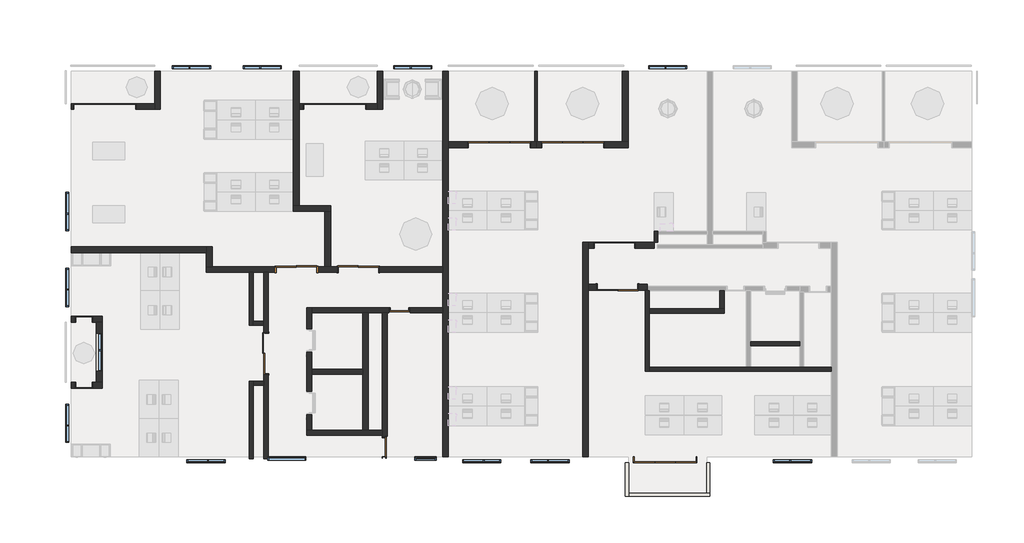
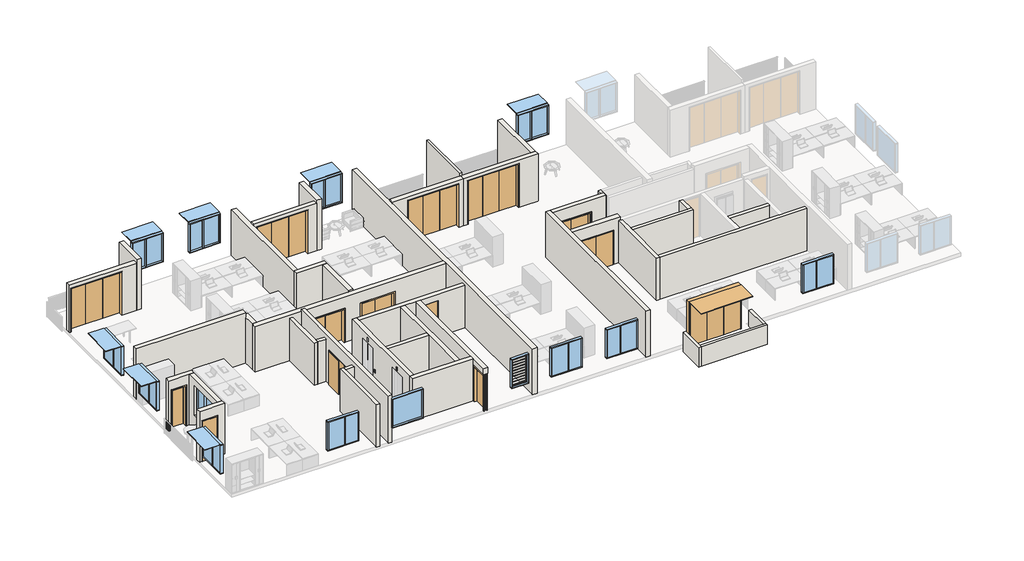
# One storey, part 1 of 5: 41 walls, 14 doors, 14 windows.
"""IFC4 building model written with IfcOpenShell, lengths in millimetres."""

from ifc_helpers import new_model, si_unit, frame, origin, place, context, project, spatial, polyline, outline, extrude, faceted_brep, transform, mapped, element, save
from components import bi_fold_dor_3_panel_3000_75a00cad, bi_fold_dor_3_panel_3000_5813971a, bi_fold_dor_3_panel_3000_e548de2b, swing_double_metal_frame_double_2040_x_970x2_2b0cb67a, swing_double_metal_frame_double_2040_x_970x2_da7648d6, swing_double_metal_frame_double_2040_x_970x2_02f75465, swing_double_metal_frame_double_2040_x_970x2_6dcf773a, swing_metal_frame_single_dor_f6efc24d, swing_metal_frame_single_dor1_247f4e75, swing_metal_frame_single_dor1_c5ce34d2, window_bottom_hung_window_bottom_hung_3b05c637, window_bottom_hung_window_bottom_hung_da071f07, window_bottom_hung_window_bottom_hung_7567f9e0, window_fixed_1800mm_wide_7e584eee, window_louvre_window_louvre_92f3ddc7

model = new_model("IFC4")

# Units and contexts
model_context = context("Model", 3, world=origin())
ifc_project = project(units=[si_unit("LENGTHUNIT", "METRE", prefix="MILLI")], contexts=[model_context])

# Site, building, storey
site = spatial("IfcSite", under=ifc_project)
building = spatial("IfcBuilding", under=site)
storey = spatial("IfcBuildingStorey", under=building, Name="2階", Elevation=33000.0)

# Doors
placement = place(None, origin())
bi_fold_dor_3_panel_3000_shape = bi_fold_dor_3_panel_3000_75a00cad(model_context)
element("IfcDoor", 1, ObjectType="Bi Fold_DOR : 3 Panel - 3000", at=placement, inside=storey, context=model_context, shape_type="MappedRepresentation", body=[
    mapped(bi_fold_dor_3_panel_3000_shape, transform((26223.4034243, 14994.8875971, 33000.0), x_axis=(1.0, 0.0, 0.0), y_axis=(0.0, 1.0, 0.0), z_axis=(0.0, 0.0, 1.0))),
])
element("IfcDoor", 2, ObjectType="Bi Fold_DOR : 3 Panel - 3000", at=placement, inside=storey, context=model_context, shape_type="MappedRepresentation", body=[
    mapped(bi_fold_dor_3_panel_3000_shape, transform((4214.6057353, 16794.8875971, 33000.0), x_axis=(1.0, 0.0, 0.0), y_axis=(0.0, 1.0, 0.0), z_axis=(0.0, 0.0, 1.0))),
])
element("IfcDoor", 3, ObjectType="Bi Fold_DOR : 3 Panel - 3000", at=placement, inside=storey, context=model_context, shape_type="MappedRepresentation", body=[
    mapped(bi_fold_dor_3_panel_3000_shape, transform((15017.1904782, 16794.8875971, 33000.0), x_axis=(1.0, 0.0, 0.0), y_axis=(0.0, 1.0, 0.0), z_axis=(0.0, 0.0, 1.0))),
])
bi_fold_dor_3_panel_3000_2_shape = bi_fold_dor_3_panel_3000_5813971a(model_context)
element("IfcDoor", 4, ObjectType="Bi Fold_DOR : 3 Panel - 3000", at=placement, inside=storey, context=model_context, shape_type="MappedRepresentation", body=[
    mapped(bi_fold_dor_3_panel_3000_2_shape, transform((22753.4034243, 14994.8875971, 33000.0), x_axis=(-1.0, 0.0, 0.0), y_axis=(0.0, -1.0, 0.0), z_axis=(0.0, 0.0, 1.0))),
])
bi_fold_dor_3_panel_3000_3_shape = bi_fold_dor_3_panel_3000_e548de2b(model_context)
element("IfcDoor", 5, ObjectType="Bi Fold_DOR : 3 Panel - 3000", at=placement, inside=storey, context=model_context, shape_type="MappedRepresentation", body=[
    mapped(bi_fold_dor_3_panel_3000_3_shape, transform((30556.5410012, 174.0898177, 33000.0), x_axis=(-1.0, 0.0, 0.0), y_axis=(0.0, -1.0, 0.0), z_axis=(0.0, 0.0, 1.0))),
])
swing_double_metal_frame_double_2040_x_970x2_shape = swing_double_metal_frame_double_2040_x_970x2_2b0cb67a(model_context)
element("IfcDoor", 6, ObjectType="Swing_Double : Metal Frame Double - 2040 x 970x2", at=placement, inside=storey, context=model_context, shape_type="MappedRepresentation", body=[
    mapped(swing_double_metal_frame_double_2040_x_970x2_shape, transform((28383.3213637, 10265.005792, 33000.0), x_axis=(1.0, 0.0, 0.0), y_axis=(0.0, 1.0, 0.0), z_axis=(0.0, 0.0, 1.0))),
])
swing_double_metal_frame_double_2040_x_970x2_2_shape = swing_double_metal_frame_double_2040_x_970x2_da7648d6(model_context)
element("IfcDoor", 7, ObjectType="Swing_Double : Metal Frame Double - 2040 x 970x2", at=placement, inside=storey, context=model_context, shape_type="MappedRepresentation", body=[
    mapped(swing_double_metal_frame_double_2040_x_970x2_2_shape, transform((11794.6062665, 4967.7678956, 33000.0), x_axis=(0.0, -1.0, 0.0), y_axis=(1.0, 0.0, 0.0), z_axis=(0.0, 0.0, 1.0))),
])
swing_double_metal_frame_double_2040_x_970x2_3_shape = swing_double_metal_frame_double_2040_x_970x2_02f75465(model_context)
element("IfcDoor", 8, ObjectType="Swing_Double : Metal Frame Double - 2040 x 970x2", at=placement, inside=storey, context=model_context, shape_type="MappedRepresentation", body=[
    mapped(swing_double_metal_frame_double_2040_x_970x2_3_shape, transform((28108.0196221, 8295.005792, 33000.0), x_axis=(-1.0, 0.0, 0.0), y_axis=(0.0, -1.0, 0.0), z_axis=(0.0, 0.0, 1.0))),
])
element("IfcDoor", 9, ObjectType="Swing_Double : Metal Frame Double - 2040 x 970x2", at=placement, inside=storey, context=model_context, shape_type="MappedRepresentation", body=[
    mapped(swing_double_metal_frame_double_2040_x_970x2_3_shape, transform((16341.1062665, 9131.2680774, 33000.0), x_axis=(1.0, 0.0, 0.0), y_axis=(0.0, 1.0, 0.0), z_axis=(0.0, 0.0, 1.0))),
])
swing_double_metal_frame_double_2040_x_970x2_4_shape = swing_double_metal_frame_double_2040_x_970x2_6dcf773a(model_context)
element("IfcDoor", 10, ObjectType="Swing_Double : Metal Frame Double - 2040 x 970x2", at=placement, inside=storey, context=model_context, shape_type="MappedRepresentation", body=[
    mapped(swing_double_metal_frame_double_2040_x_970x2_4_shape, transform((13005.6904782, 9131.2680774, 33000.0), x_axis=(-1.0, 0.0, 0.0), y_axis=(0.0, -1.0, 0.0), z_axis=(0.0, 0.0, 1.0))),
])
swing_metal_frame_single_dor_shape = swing_metal_frame_single_dor_f6efc24d(model_context)
element("IfcDoor", 11, ObjectType="Swing_Metal Frame_Single_DOR : 2140h x 920 (2210x1010 BLK)", at=placement, inside=storey, context=model_context, shape_type="MappedRepresentation", body=[
    mapped(swing_metal_frame_single_dor_shape, transform((17369.6062665, 770.0, 33000.0), x_axis=(0.0, 1.0, 0.0), y_axis=(-1.0, 0.0, 0.0), z_axis=(0.0, 0.0, 1.0))),
])
element("IfcDoor", 12, ObjectType="Swing_Metal Frame_Single_DOR : 2140h x 920 (2210x1010 BLK)", at=placement, inside=storey, context=model_context, shape_type="MappedRepresentation", body=[
    mapped(swing_metal_frame_single_dor_shape, transform((18069.6062665, 7210.0, 33000.0), x_axis=(1.0, 0.0, 0.0), y_axis=(0.0, 1.0, 0.0), z_axis=(0.0, 0.0, 1.0))),
])
swing_metal_frame_single_dor1_shape = swing_metal_frame_single_dor1_247f4e75(model_context)
element("IfcDoor", 13, ObjectType="Swing_Metal Frame_Single_DOR1 : 2040h x 820 (2110x920 STUD)", at=placement, inside=storey, context=model_context, shape_type="MappedRepresentation", body=[
    mapped(swing_metal_frame_single_dor1_shape, transform((3227.1057353, 3681.2680774, 33000.0), x_axis=(1.0, 0.0, 0.0), y_axis=(0.0, 1.0, 0.0), z_axis=(0.0, 0.0, 1.0))),
])
swing_metal_frame_single_dor1_2_shape = swing_metal_frame_single_dor1_c5ce34d2(model_context)
element("IfcDoor", 14, ObjectType="Swing_Metal Frame_Single_DOR1 : 2040h x 820 (2110x920 STUD)", at=placement, inside=storey, context=model_context, shape_type="MappedRepresentation", body=[
    mapped(swing_metal_frame_single_dor1_2_shape, transform((3227.1057353, 6785.3166994, 33000.0), x_axis=(1.0, 0.0, 0.0), y_axis=(0.0, 1.0, 0.0), z_axis=(0.0, 0.0, 1.0))),
])

# Walls
element("IfcWall", 15, ObjectType="Brickwork_Double_270mm", at=placement, inside=storey, context=model_context, shape_type="Brep", body=[
    faceted_brep([(20364.6062665, 309.0898177, 33000.0), (20364.6062665, 14859.8875971, 33000.0), (20364.6062665, 15129.8875971, 33000.0), (20364.6062665, 18440.0, 33000.0), (20364.6062665, 18440.0, 35700.0), (20364.6062665, 18440.0, 35800.0), (20364.6062665, 309.0898177, 35800.0), (20094.6062665, 309.0898177, 33000.0), (20094.6062665, 309.0898177, 35800.0), (20094.6062665, 8996.2680774, 35800.0), (20094.6062665, 9266.2680774, 35800.0), (20094.6062665, 18440.0, 35800.0), (20094.6062665, 18440.0, 33000.0), (20094.6062665, 9266.2680774, 33000.0), (20094.6062665, 8996.2680774, 33000.0), (20094.6062665, 7335.0, 33000.0), (20094.6062665, 7085.0, 33000.0)], [[[0, 1, 2, 3, 4, 5, 6]], [[7, 8, 9, 10, 11, 12, 13, 14, 15, 16]], [[3, 2, 1, 0, 7, 16, 15, 14, 13, 12]], [[6, 5, 11, 10, 9, 8]], [[0, 6, 8, 7]], [[5, 4, 3, 12, 11]]]),
])
element("IfcWall", 16, ObjectType="Brickwork_Double_270mm", at=placement, inside=storey, context=model_context, shape_type="Brep", body=[
    faceted_brep([(26951.8807277, 309.0898177, 33000.0), (26951.8807277, 8160.005792, 33000.0), (26951.8807277, 8430.005792, 33000.0), (26951.8807277, 10130.005792, 33000.0), (26951.8807277, 10400.005792, 33000.0), (26951.8807277, 10400.005792, 35800.0), (26951.8807277, 10130.005792, 35800.0), (26951.8807277, 8430.005792, 35800.0), (26951.8807277, 8160.005792, 35800.0), (26951.8807277, 309.0898177, 35800.0), (26681.8807277, 309.0898177, 33000.0), (26681.8807277, 309.0898177, 35800.0), (26681.8807277, 10400.005792, 35800.0), (26681.8807277, 10400.005792, 33000.0)], [[[0, 1, 2, 3, 4, 5, 6, 7, 8, 9]], [[10, 11, 12, 13]], [[4, 3, 2, 1, 0, 10, 13]], [[9, 8, 7, 6, 5, 12, 11]], [[0, 9, 11, 10]], [[5, 4, 13, 12]]]),
])
element("IfcWall", 17, ObjectType="Brickwork_Double_270mm", at=placement, inside=storey, context=model_context, shape_type="Brep", body=[
    faceted_brep([(20094.6062665, 8996.2680774, 35800.0), (8984.6062665, 8996.2680774, 35800.0), (8984.6062665, 8996.2680774, 33000.0), (12217.1904782, 8996.2680774, 33000.0), (12217.1904782, 8996.2680774, 35090.0), (14217.1904782, 8996.2680774, 35090.0), (14217.1904782, 8996.2680774, 33000.0), (15129.6062665, 8996.2680774, 33000.0), (15129.6062665, 8996.2680774, 35090.0), (17129.6062665, 8996.2680774, 35090.0), (17129.6062665, 8996.2680774, 33000.0), (20094.6062665, 8996.2680774, 33000.0), (8984.6062665, 9266.2680774, 35800.0), (9254.6062665, 9266.2680774, 35800.0), (20094.6062665, 9266.2680774, 35800.0), (20094.6062665, 9266.2680774, 33000.0), (17129.6062665, 9266.2680774, 33000.0), (17129.6062665, 9266.2680774, 35090.0), (15129.6062665, 9266.2680774, 35090.0), (15129.6062665, 9266.2680774, 33000.0), (14827.1904782, 9266.2680774, 33000.0), (14557.1904782, 9266.2680774, 33000.0), (14217.1904782, 9266.2680774, 33000.0), (14217.1904782, 9266.2680774, 35090.0), (12217.1904782, 9266.2680774, 35090.0), (12217.1904782, 9266.2680774, 33000.0), (9254.6062665, 9266.2680774, 33000.0), (8984.6062665, 9266.2680774, 33000.0)], [[[0, 1, 2, 3, 4, 5, 6, 7, 8, 9, 10, 11]], [[12, 13, 14, 15, 16, 17, 18, 19, 20, 21, 22, 23, 24, 25, 26, 27]], [[15, 11, 10, 16]], [[2, 27, 26, 25, 3]], [[6, 22, 21, 20, 19, 7]], [[1, 0, 14, 13, 12]], [[0, 11, 15, 14]], [[27, 2, 1, 12]], [[6, 5, 23, 22]], [[5, 4, 24, 23]], [[4, 3, 25, 24]], [[18, 8, 7, 19]], [[8, 18, 17, 9]], [[9, 17, 16, 10]]]),
])
element("IfcWall", 18, ObjectType="Brickwork_Double_270mm", at=placement, inside=storey, context=model_context, shape_type="Brep", body=[
    faceted_brep([(9254.6062665, 9266.2680774, 33000.0), (9254.6062665, 10185.7680774, 33000.0), (9254.6062665, 10185.7680774, 35800.0), (9254.6062665, 9266.2680774, 35800.0), (8984.6062665, 9266.2680774, 33000.0), (8984.6062665, 9266.2680774, 35800.0), (8984.6062665, 10185.7680774, 35800.0), (8984.6062665, 10185.7680774, 33000.0), (8984.6062665, 9915.7680774, 33000.0)], [[[0, 1, 2, 3]], [[4, 5, 6, 7, 8]], [[1, 0, 4, 8, 7]], [[3, 2, 6, 5]], [[2, 1, 7, 6]], [[0, 3, 5, 4]]]),
])
element("IfcWall", 19, ObjectType="Brickwork_Double_270mm", at=placement, inside=storey, context=model_context, shape_type="Brep", body=[
    faceted_brep([(13352.1904782, 12125.0213727, 33000.0), (13352.1904782, 16659.8875971, 33000.0), (13352.1904782, 16929.8875971, 33000.0), (13352.1904782, 18440.0, 33000.0), (13352.1904782, 18440.0, 35700.0), (13352.1904782, 18440.0, 35800.0), (13352.1904782, 12125.0213727, 35800.0), (13082.1904782, 12125.0213727, 33000.0), (13082.1904782, 12125.0213727, 35800.0), (13082.1904782, 18440.0, 35800.0), (13082.1904782, 18440.0, 33000.0)], [[[0, 1, 2, 3, 4, 5, 6]], [[7, 8, 9, 10]], [[3, 2, 1, 0, 7, 10]], [[6, 5, 9, 8]], [[5, 4, 3, 10, 9]], [[0, 6, 8, 7]]]),
])
element("IfcWall", 20, ObjectType="Brickwork_Double_270mm", at=placement, inside=storey, context=model_context, shape_type="SweptSolid", body=[
    extrude(outline(polyline([(33000.0, 26951.8807277), (33000.0, 27171.8213637), (35090.0, 27171.8213637), (35090.0, 29171.8213637), (33000.0, 29171.8213637), (33000.0, 30037.1585166), (35800.0, 30037.1585166), (35800.0, 26951.8807277), (33000.0, 26951.8807277)])), frame((0.0, 10130.005792, 0.0), z_axis=(0.0, 1.0, 0.0), x_axis=(0.0, 0.0, 1.0)), (0.0, 0.0, 1.0), 270.0),
])
element("IfcWall", 21, ObjectType="Brickwork_Double_270mm", at=placement, inside=storey, context=model_context, shape_type="Brep", body=[
    faceted_brep([(28823.2012748, 14859.8875971, 35900.0), (24488.4034243, 14859.8875971, 35900.0), (24488.4034243, 14859.8875971, 33000.0), (24723.4034243, 14859.8875971, 33000.0), (24723.4034243, 14859.8875971, 35700.0), (27723.4034243, 14859.8875971, 35700.0), (27723.4034243, 14859.8875971, 33000.0), (28823.2012748, 14859.8875971, 33000.0), (24488.4034243, 15129.8875971, 35900.0), (28553.2012748, 15129.8875971, 35900.0), (28823.2012748, 15129.8875971, 35900.0), (28823.2012748, 15129.8875971, 33000.0), (28553.2012748, 15129.8875971, 33000.0), (27723.4034243, 15129.8875971, 33000.0), (27723.4034243, 15129.8875971, 35700.0), (24723.4034243, 15129.8875971, 35700.0), (24723.4034243, 15129.8875971, 33000.0), (24543.4034243, 15129.8875971, 33000.0), (24488.4034243, 15129.8875971, 33000.0)], [[[0, 1, 2, 3, 4, 5, 6, 7]], [[8, 9, 10, 11, 12, 13, 14, 15, 16, 17, 18]], [[11, 7, 6, 13, 12]], [[2, 18, 17, 16, 3]], [[1, 0, 10, 9, 8]], [[2, 1, 8, 18]], [[0, 7, 11, 10]], [[5, 14, 13, 6]], [[14, 5, 4, 15]], [[15, 4, 3, 16]]]),
])
element("IfcWall", 22, ObjectType="Brickwork_Double_270mm", at=placement, inside=storey, context=model_context, shape_type="Brep", body=[
    faceted_brep([(28823.2012748, 15129.8875971, 33000.0), (28823.2012748, 18440.0, 33000.0), (28823.2012748, 18440.0, 35900.0), (28823.2012748, 15129.8875971, 35900.0), (28553.2012748, 15129.8875971, 33000.0), (28553.2012748, 15129.8875971, 35900.0), (28553.2012748, 18440.0, 35900.0), (28553.2012748, 18440.0, 35700.0), (28553.2012748, 18440.0, 33000.0)], [[[0, 1, 2, 3]], [[4, 5, 6, 7, 8]], [[1, 0, 4, 8]], [[3, 2, 6, 5]], [[2, 1, 8, 7, 6]], [[0, 3, 5, 4]]]),
])
element("IfcWall", 23, ObjectType="Brickwork_Double_270mm", at=placement, inside=storey, context=model_context, shape_type="Brep", body=[
    faceted_brep([(26951.8807277, 8430.005792, 35800.0), (29722.1585166, 8430.005792, 35800.0), (29722.1585166, 8430.005792, 33000.0), (29319.5196221, 8430.005792, 33000.0), (29319.5196221, 8430.005792, 35090.0), (27319.5196221, 8430.005792, 35090.0), (27319.5196221, 8430.005792, 33000.0), (26951.8807277, 8430.005792, 33000.0), (29722.1585166, 8160.005792, 35800.0), (26951.8807277, 8160.005792, 35800.0), (26951.8807277, 8160.005792, 33000.0), (27319.5196221, 8160.005792, 33000.0), (27319.5196221, 8160.005792, 35090.0), (29319.5196221, 8160.005792, 35090.0), (29319.5196221, 8160.005792, 33000.0), (29622.1585166, 8160.005792, 33000.0), (29722.1585166, 8160.005792, 33000.0), (29722.1585166, 8160.005792, 35600.0), (29722.1585166, 8330.005792, 33000.0)], [[[0, 1, 2, 3, 4, 5, 6, 7]], [[8, 9, 10, 11, 12, 13, 14, 15, 16, 17]], [[10, 7, 6, 11]], [[2, 18, 16, 15, 14, 3]], [[1, 0, 9, 8]], [[2, 1, 8, 17, 16, 18]], [[0, 7, 10, 9]], [[13, 4, 3, 14]], [[4, 13, 12, 5]], [[5, 12, 11, 6]]]),
])
element("IfcWall", 24, ObjectType="Brickwork_Double_270mm", at=placement, inside=storey, context=model_context, shape_type="Brep", body=[
    faceted_brep([(8984.6062665, 10185.7680774, 33000.0), (2639.6057353, 10185.7680774, 33000.0), (2639.6057353, 10185.7680774, 36100.0), (8984.6062665, 10185.7680774, 36100.0), (8984.6062665, 10185.7680774, 35800.0), (8984.6062665, 9915.7680774, 33000.0), (8984.6062665, 9915.7680774, 36100.0), (2639.6057353, 9915.7680774, 36100.0), (2639.6057353, 9915.7680774, 33000.0)], [[[0, 1, 2, 3, 4]], [[5, 6, 7, 8]], [[1, 0, 5, 8]], [[3, 2, 7, 6]], [[0, 4, 3, 6, 5]], [[2, 1, 8, 7]]]),
])
element("IfcWall", 25, ObjectType="Brickwork_Double_270mm", at=placement, inside=storey, context=model_context, shape_type="Brep", body=[
    faceted_brep([(6554.6645991, 18440.0, 33000.0), (6554.6645991, 16929.8875971, 33000.0), (6554.6645991, 16659.8875971, 33000.0), (6554.6645991, 16659.8875971, 35900.0), (6554.6645991, 16659.8875971, 36100.0), (6554.6645991, 18440.0, 36100.0), (6554.6645991, 18440.0, 35700.0), (6824.6645991, 18440.0, 33000.0), (6824.6645991, 18440.0, 36100.0), (6824.6645991, 16659.8875971, 36100.0), (6824.6645991, 16659.8875971, 33000.0)], [[[0, 1, 2, 3, 4, 5, 6]], [[7, 8, 9, 10]], [[2, 1, 0, 7, 10]], [[5, 4, 9, 8]], [[0, 6, 5, 8, 7]], [[4, 3, 2, 10, 9]]]),
])
element("IfcWall", 26, ObjectType="Brickwork_Double_270mm", at=placement, inside=storey, context=model_context, shape_type="Brep", body=[
    faceted_brep([(2639.6057353, 3816.2680774, 36100.0), (3814.6057353, 3816.2680774, 36100.0), (4084.6057353, 3816.2680774, 36100.0), (4084.6057353, 3816.2680774, 33000.0), (3814.6057353, 3816.2680774, 33000.0), (3667.1057353, 3816.2680774, 33000.0), (3667.1057353, 3816.2680774, 35490.0), (2787.1057353, 3816.2680774, 35490.0), (2787.1057353, 3816.2680774, 33000.0), (2639.6057353, 3816.2680774, 33000.0), (2639.6057353, 3816.2680774, 35700.0), (4084.6057353, 3546.2680774, 36100.0), (2639.6057353, 3546.2680774, 36100.0), (2639.6057353, 3546.2680774, 33000.0), (2787.1057353, 3546.2680774, 33000.0), (2787.1057353, 3546.2680774, 35490.0), (3667.1057353, 3546.2680774, 35490.0), (3667.1057353, 3546.2680774, 33000.0), (4084.6057353, 3546.2680774, 33000.0)], [[[0, 1, 2, 3, 4, 5, 6, 7, 8, 9, 10]], [[11, 12, 13, 14, 15, 16, 17, 18]], [[13, 9, 8, 14]], [[3, 18, 17, 5, 4]], [[2, 1, 0, 12, 11]], [[0, 10, 9, 13, 12]], [[3, 2, 11, 18]], [[16, 6, 5, 17]], [[6, 16, 15, 7]], [[7, 15, 14, 8]]]),
])
element("IfcWall", 27, ObjectType="Brickwork_Double_270mm", at=placement, inside=storey, context=model_context, shape_type="Brep", body=[
    faceted_brep([(2639.6057353, 6920.3166994, 36100.0), (4084.6057353, 6920.3166994, 36100.0), (4084.6057353, 6920.3166994, 33000.0), (3667.1057353, 6920.3166994, 33000.0), (3667.1057353, 6920.3166994, 35490.0), (2787.1057353, 6920.3166994, 35490.0), (2787.1057353, 6920.3166994, 33000.0), (2639.6057353, 6920.3166994, 33000.0), (4084.6057353, 6650.3166994, 36100.0), (3814.6057353, 6650.3166994, 36100.0), (2639.6057353, 6650.3166994, 36100.0), (2639.6057353, 6650.3166994, 35700.0), (2639.6057353, 6650.3166994, 33000.0), (2787.1057353, 6650.3166994, 33000.0), (2787.1057353, 6650.3166994, 35490.0), (3667.1057353, 6650.3166994, 35490.0), (3667.1057353, 6650.3166994, 33000.0), (3814.6057353, 6650.3166994, 33000.0), (4084.6057353, 6650.3166994, 33000.0)], [[[0, 1, 2, 3, 4, 5, 6, 7]], [[8, 9, 10, 11, 12, 13, 14, 15, 16, 17, 18]], [[12, 7, 6, 13]], [[2, 18, 17, 16, 3]], [[1, 0, 10, 9, 8]], [[0, 7, 12, 11, 10]], [[2, 1, 8, 18]], [[15, 4, 3, 16]], [[4, 15, 14, 5]], [[5, 14, 13, 6]]]),
])
element("IfcWall", 28, ObjectType="Brickwork_Double_270mm", at=placement, inside=storey, context=model_context, shape_type="SweptSolid", body=[
    extrude(outline(polyline([(3816.2680774, 33000.0), (3816.2680774, 36100.0), (6650.3166994, 36100.0), (6650.3166994, 33000.0), (3816.2680774, 33000.0)]), holes=[polyline([(6133.2923884, 33900.0), (6133.2923884, 35700.0), (4333.2923884, 35700.0), (4333.2923884, 33900.0), (6133.2923884, 33900.0)])]), frame((3814.6057353, 0.0, 0.0), z_axis=(1.0, 0.0, 0.0), x_axis=(0.0, 1.0, 0.0)), (0.0, 0.0, 1.0), 270.0),
])
element("IfcWall", 29, ObjectType="Brickwork_Double_270mm", at=placement, inside=storey, context=model_context, shape_type="Brep", body=[
    faceted_brep([(17017.1904782, 18440.0, 33000.0), (17017.1904782, 16929.8875971, 33000.0), (17017.1904782, 16659.8875971, 33000.0), (17017.1904782, 16659.8875971, 35900.0), (17017.1904782, 16659.8875971, 36100.0), (17017.1904782, 18440.0, 36100.0), (17017.1904782, 18440.0, 35700.0), (17287.1904782, 18440.0, 33000.0), (17287.1904782, 18440.0, 36100.0), (17287.1904782, 16659.8875971, 36100.0), (17287.1904782, 16659.8875971, 33000.0)], [[[0, 1, 2, 3, 4, 5, 6]], [[7, 8, 9, 10]], [[2, 1, 0, 7, 10]], [[5, 4, 9, 8]], [[0, 6, 5, 8, 7]], [[4, 3, 2, 10, 9]]]),
])
element("IfcWall", 30, ObjectType="Whte Paint Finish", at=placement, inside=storey, context=model_context, shape_type="Brep", body=[
    faceted_brep([(28688.2012748, 39.0898177, 32800.0), (28688.2012748, -1535.0, 32800.0), (28688.2012748, -1535.0, 34000.0), (28688.2012748, 39.0898177, 34000.0), (28838.2012748, 39.0898177, 32800.0), (28838.2012748, 39.0898177, 34000.0), (28838.2012748, -1385.0, 34000.0), (28838.2012748, -1535.0, 34000.0), (28838.2012748, -1535.0, 32800.0), (28838.2012748, -1385.0, 32800.0)], [[[0, 1, 2, 3]], [[4, 5, 6, 7, 8, 9]], [[1, 0, 4, 9, 8]], [[3, 2, 7, 6, 5]], [[0, 3, 5, 4]], [[2, 1, 8, 7]]]),
])
element("IfcWall", 31, ObjectType="Whte Paint Finish", at=placement, inside=storey, context=model_context, shape_type="Brep", body=[
    faceted_brep([(28838.2012748, -1535.0, 32800.0), (32664.8807277, -1535.0, 32800.0), (32664.8807277, -1535.0, 34000.0), (28838.2012748, -1535.0, 34000.0), (28838.2012748, -1385.0, 32800.0), (28838.2012748, -1385.0, 34000.0), (32514.8807277, -1385.0, 34000.0), (32664.8807277, -1385.0, 34000.0), (32664.8807277, -1385.0, 32800.0), (32514.8807277, -1385.0, 32800.0)], [[[0, 1, 2, 3]], [[4, 5, 6, 7, 8, 9]], [[1, 0, 4, 9, 8]], [[3, 2, 7, 6, 5]], [[0, 3, 5, 4]], [[2, 1, 8, 7]]]),
])
element("IfcWall", 32, ObjectType="Whte Paint Finish", at=placement, inside=storey, context=model_context, shape_type="SweptSolid", body=[
    extrude(outline(polyline([(32514.8807277, -1385.0), (32514.8807277, 39.0898177), (32664.8807277, 39.0898177), (32664.8807277, -1385.0), (32514.8807277, -1385.0)])), frame((0.0, 0.0, 32800.0), z_axis=(0.0, 0.0, 1.0), x_axis=(1.0, 0.0, 0.0)), (0.0, 0.0, 1.0), 1200.0),
])
element("IfcWall", 33, ObjectType="Brickwork_Double_270mm", at=placement, inside=storey, context=model_context, shape_type="Brep", body=[
    faceted_brep([(6554.6645991, 16659.8875971, 35900.0), (2639.6057353, 16659.8875971, 35900.0), (2639.6057353, 16659.8875971, 33000.0), (2714.6057353, 16659.8875971, 33000.0), (2714.6057353, 16659.8875971, 35700.0), (5714.6057353, 16659.8875971, 35700.0), (5714.6057353, 16659.8875971, 33000.0), (6554.6645991, 16659.8875971, 33000.0), (2639.6057353, 16929.8875971, 35900.0), (6554.6645991, 16929.8875971, 35900.0), (6554.6645991, 16929.8875971, 33000.0), (5714.6057353, 16929.8875971, 33000.0), (5714.6057353, 16929.8875971, 35700.0), (2714.6057353, 16929.8875971, 35700.0), (2714.6057353, 16929.8875971, 33000.0), (2639.6057353, 16929.8875971, 33000.0), (2639.6057353, 16929.8875971, 35700.0)], [[[0, 1, 2, 3, 4, 5, 6, 7]], [[8, 9, 10, 11, 12, 13, 14, 15, 16]], [[2, 15, 14, 3]], [[10, 7, 6, 11]], [[1, 0, 9, 8]], [[5, 12, 11, 6]], [[12, 5, 4, 13]], [[13, 4, 3, 14]], [[0, 7, 10, 9]], [[2, 1, 8, 16, 15]]]),
])
element("IfcWall", 34, ObjectType="Brickwork_Double_270mm", at=placement, inside=storey, context=model_context, shape_type="Brep", body=[
    faceted_brep([(24488.4034243, 14859.8875971, 33000.0), (24488.4034243, 14859.8875971, 35900.0), (20364.6062665, 14859.8875971, 35900.0), (20364.6062665, 14859.8875971, 33000.0), (21253.4034243, 14859.8875971, 33000.0), (21253.4034243, 14859.8875971, 35700.0), (24253.4034243, 14859.8875971, 35700.0), (24253.4034243, 14859.8875971, 33000.0), (24488.4034243, 15129.8875971, 35900.0), (24488.4034243, 15129.8875971, 33000.0), (24433.4034243, 15129.8875971, 33000.0), (24253.4034243, 15129.8875971, 33000.0), (24253.4034243, 15129.8875971, 35700.0), (21253.4034243, 15129.8875971, 35700.0), (21253.4034243, 15129.8875971, 33000.0), (20364.6062665, 15129.8875971, 33000.0), (20364.6062665, 15129.8875971, 35900.0)], [[[0, 1, 2, 3, 4, 5, 6, 7]], [[8, 9, 10, 11, 12, 13, 14, 15, 16]], [[9, 0, 7, 11, 10]], [[3, 15, 14, 4]], [[1, 0, 9, 8]], [[2, 1, 8, 16]], [[13, 5, 4, 14]], [[5, 13, 12, 6]], [[6, 12, 11, 7]], [[3, 2, 16, 15]]]),
])
element("IfcWall", 35, ObjectType="Brickwork_Double_270mm", at=placement, inside=storey, context=model_context, shape_type="SweptSolid", body=[
    extrude(outline(polyline([(35900.0, 17017.1904782), (35900.0, 13352.1904782), (33000.0, 13352.1904782), (33000.0, 13517.1904782), (35700.0, 13517.1904782), (35700.0, 16517.1904782), (33000.0, 16517.1904782), (33000.0, 17017.1904782), (35900.0, 17017.1904782)])), frame((0.0, 16659.8875971, 0.0), z_axis=(0.0, 1.0, 0.0), x_axis=(0.0, 0.0, 1.0)), (0.0, 0.0, 1.0), 270.0),
])
element("IfcWall", 36, ObjectType="Brickwork_Double_270mm", at=placement, inside=storey, context=model_context, shape_type="Brep", body=[
    faceted_brep([(13082.1904782, 11855.0213727, 33000.0), (14557.1904782, 11855.0213727, 33000.0), (14827.1904782, 11855.0213727, 33000.0), (14827.1904782, 11855.0213727, 35900.0), (14557.1904782, 11855.0213727, 35900.0), (13082.1904782, 11855.0213727, 35900.0), (13082.1904782, 12125.0213727, 33000.0), (13082.1904782, 12125.0213727, 35800.0), (13082.1904782, 12125.0213727, 35900.0), (14827.1904782, 12125.0213727, 35900.0), (14827.1904782, 12125.0213727, 33000.0), (13352.1904782, 12125.0213727, 33000.0)], [[[0, 1, 2, 3, 4, 5]], [[6, 7, 8, 9, 10, 11]], [[2, 1, 0, 6, 11, 10]], [[5, 4, 3, 9, 8]], [[3, 2, 10, 9]], [[0, 5, 8, 7, 6]]]),
])
element("IfcWall", 37, ObjectType="Brickwork_Double_270mm", at=placement, inside=storey, context=model_context, shape_type="SweptSolid", body=[
    extrude(outline(polyline([(14557.1904782, 9266.2680774), (14557.1904782, 11855.0213727), (14827.1904782, 11855.0213727), (14827.1904782, 9266.2680774), (14557.1904782, 9266.2680774)])), frame((0.0, 0.0, 33000.0), z_axis=(0.0, 0.0, 1.0), x_axis=(1.0, 0.0, 0.0)), (0.0, 0.0, 1.0), 2900.0),
])
element("IfcWall", 38, ObjectType="Brickwork_Single_110mm", at=placement, inside=storey, context=model_context, shape_type="Brep", body=[
    faceted_brep([(24543.4034243, 15129.8875971, 33000.0), (24543.4034243, 18440.0, 33000.0), (24543.4034243, 18440.0, 36100.0), (24543.4034243, 15129.8875971, 36100.0), (24433.4034243, 15129.8875971, 33000.0), (24433.4034243, 15129.8875971, 36100.0), (24433.4034243, 18440.0, 36100.0), (24433.4034243, 18440.0, 33000.0), (24488.4034243, 15129.8875971, 33000.0)], [[[0, 1, 2, 3]], [[4, 5, 6, 7]], [[1, 0, 8, 4, 7]], [[3, 2, 6, 5]], [[0, 3, 5, 4, 8]], [[2, 1, 7, 6]]]),
])
element("IfcWall", 39, ObjectType="C1 - Concrete Type 2", at=placement, inside=storey, context=model_context, shape_type="Brep", body=[
    faceted_brep([(29822.1585166, 7080.005792, 33000.0), (33332.1585166, 7080.005792, 33000.0), (33332.1585166, 7080.005792, 35600.0), (29822.1585166, 7080.005792, 35600.0), (29822.1585166, 7280.005792, 33000.0), (29822.1585166, 7280.005792, 35600.0), (33132.1585166, 7280.005792, 35600.0), (33332.1585166, 7280.005792, 35600.0), (33332.1585166, 7280.005792, 33000.0), (33132.1585166, 7280.005792, 33000.0)], [[[0, 1, 2, 3]], [[4, 5, 6, 7, 8, 9]], [[1, 0, 4, 9, 8]], [[3, 2, 7, 6, 5]], [[2, 1, 8, 7]], [[0, 3, 5, 4]]]),
])
element("IfcWall", 40, ObjectType="C1 - Concrete Type 2", at=placement, inside=storey, context=model_context, shape_type="SweptSolid", body=[
    extrude(outline(polyline([(33132.1585166, 7280.005792), (33132.1585166, 8130.005792), (33332.1585166, 8130.005792), (33332.1585166, 7280.005792), (33132.1585166, 7280.005792)])), frame((0.0, 0.0, 33000.0), z_axis=(0.0, 0.0, 1.0), x_axis=(1.0, 0.0, 0.0)), (0.0, 0.0, 1.0), 2600.0),
])
element("IfcWall", 41, ObjectType="C1 - Concrete Type 2", at=placement, inside=storey, context=model_context, shape_type="SweptSolid", body=[
    extrude(outline(polyline([(36882.1585166, 5530.005792), (34582.1585166, 5530.005792), (34582.1585166, 5730.005792), (36882.1585166, 5730.005792), (36882.1585166, 5530.005792)])), frame((0.0, 0.0, 33000.0), z_axis=(0.0, 0.0, 1.0), x_axis=(1.0, 0.0, 0.0)), (0.0, 0.0, 1.0), 2600.0),
])
element("IfcWall", 42, ObjectType="C1 - Concrete Type 2", at=placement, inside=storey, context=model_context, shape_type="Brep", body=[
    faceted_brep([(29822.1585166, 4330.005792, 33000.0), (29822.1585166, 4530.005792, 33000.0), (29822.1585166, 7080.005792, 33000.0), (29822.1585166, 7280.005792, 33000.0), (29822.1585166, 8130.005792, 33000.0), (29822.1585166, 8130.005792, 35600.0), (29822.1585166, 7280.005792, 35600.0), (29822.1585166, 7080.005792, 35600.0), (29822.1585166, 4530.005792, 35600.0), (29822.1585166, 4330.005792, 35600.0), (29622.1585166, 4330.005792, 33000.0), (29622.1585166, 4330.005792, 35600.0), (29622.1585166, 8160.005792, 35600.0), (29622.1585166, 8160.005792, 33000.0), (29722.1585166, 8160.005792, 33000.0), (29722.1585166, 8130.005792, 33000.0), (29722.1585166, 8130.005792, 35600.0), (29722.1585166, 8160.005792, 35600.0)], [[[0, 1, 2, 3, 4, 5, 6, 7, 8, 9]], [[10, 11, 12, 13]], [[4, 3, 2, 1, 0, 10, 13, 14, 15]], [[9, 8, 7, 6, 5, 16, 17, 12, 11]], [[0, 9, 11, 10]], [[5, 4, 15, 16]], [[15, 14, 17, 16]], [[14, 13, 12, 17]]]),
])
element("IfcWall", 43, ObjectType="C1 - Concrete Type 2", at=placement, inside=storey, context=model_context, shape_type="Brep", body=[
    faceted_brep([(29822.1585166, 4330.005792, 33000.0), (38377.4654784, 4330.005792, 33000.0), (38377.4654784, 4330.005792, 35600.0), (29822.1585166, 4330.005792, 35600.0), (29822.1585166, 4530.005792, 33000.0), (29822.1585166, 4530.005792, 35600.0), (34382.1585166, 4530.005792, 35600.0), (34582.1585166, 4530.005792, 35600.0), (36882.1585166, 4530.005792, 35600.0), (37082.1585166, 4530.005792, 35600.0), (38377.4654784, 4530.005792, 35600.0), (38377.4654784, 4530.005792, 33000.0), (37082.1585166, 4530.005792, 33000.0), (36882.1585166, 4530.005792, 33000.0), (34582.1585166, 4530.005792, 33000.0), (34382.1585166, 4530.005792, 33000.0)], [[[0, 1, 2, 3]], [[4, 5, 6, 7, 8, 9, 10, 11, 12, 13, 14, 15]], [[1, 0, 4, 15, 14, 13, 12, 11]], [[3, 2, 10, 9, 8, 7, 6, 5]], [[0, 3, 5, 4]], [[2, 1, 11, 10]]]),
])
element("IfcWall", 44, ObjectType="C1 - Concrete Type 2", at=placement, inside=storey, context=model_context, shape_type="SweptSolid", body=[
    extrude(outline(polyline([(11694.6062665, 6497.0008144), (11194.6062665, 6497.0008144), (11194.6062665, 6697.0008144), (11694.6062665, 6697.0008144), (11694.6062665, 6497.0008144)])), frame((0.0, 0.0, 33000.0), z_axis=(0.0, 0.0, 1.0), x_axis=(1.0, 0.0, 0.0)), (0.0, 0.0, 1.0), 2600.0),
])
element("IfcWall", 45, ObjectType="C1 - Concrete Type 2", at=placement, inside=storey, context=model_context, shape_type="Brep", body=[
    faceted_brep([(11894.6062665, 8997.0008144, 33000.0), (11894.6062665, 8997.0008144, 35900.0), (11894.6062665, 235.0, 35900.0), (11894.6062665, 235.0, 33000.0), (11894.6062665, 4179.2678956, 33000.0), (11894.6062665, 4179.2678956, 35090.0), (11894.6062665, 6179.2678956, 35090.0), (11894.6062665, 6179.2678956, 33000.0), (11694.6062665, 8997.0008144, 35900.0), (11694.6062665, 8997.0008144, 33000.0), (11694.6062665, 6697.0008144, 33000.0), (11694.6062665, 6497.0008144, 33000.0), (11694.6062665, 6179.2678956, 33000.0), (11694.6062665, 6179.2678956, 35090.0), (11694.6062665, 4179.2678956, 35090.0), (11694.6062665, 4179.2678956, 33000.0), (11694.6062665, 3873.0, 33000.0), (11694.6062665, 3673.0, 33000.0), (11694.6062665, 235.0, 33000.0), (11694.6062665, 235.0, 35900.0)], [[[0, 1, 2, 3, 4, 5, 6, 7]], [[8, 9, 10, 11, 12, 13, 14, 15, 16, 17, 18, 19]], [[9, 0, 7, 12, 11, 10]], [[3, 18, 17, 16, 15, 4]], [[1, 0, 9, 8]], [[2, 1, 8, 19]], [[3, 2, 19, 18]], [[6, 13, 12, 7]], [[13, 6, 5, 14]], [[14, 5, 4, 15]]]),
])
element("IfcWall", 46, ObjectType="C1 - Concrete Type 2", at=placement, inside=storey, context=model_context, shape_type="Brep", body=[
    faceted_brep([(11194.6062665, 6497.0008144, 33000.0), (11194.6062665, 6697.0008144, 33000.0), (11194.6062665, 8997.0008144, 33000.0), (11194.6062665, 8997.0008144, 35600.0), (11194.6062665, 6697.0008144, 35600.0), (11194.6062665, 6497.0008144, 35600.0), (10994.6062665, 6497.0008144, 33000.0), (10994.6062665, 6497.0008144, 35600.0), (10994.6062665, 8997.0008144, 35600.0), (10994.6062665, 8997.0008144, 33000.0)], [[[0, 1, 2, 3, 4, 5]], [[6, 7, 8, 9]], [[2, 1, 0, 6, 9]], [[3, 2, 9, 8]], [[5, 4, 3, 8, 7]], [[0, 5, 7, 6]]]),
])
element("IfcWall", 47, ObjectType="C1 - Concrete Type 2", at=placement, inside=storey, context=model_context, shape_type="SweptSolid", body=[
    extrude(outline(polyline([(11694.6062665, 3673.0), (11194.6062665, 3673.0), (11194.6062665, 3873.0), (11694.6062665, 3873.0), (11694.6062665, 3673.0)])), frame((0.0, 0.0, 33000.0), z_axis=(0.0, 0.0, 1.0), x_axis=(1.0, 0.0, 0.0)), (0.0, 0.0, 1.0), 2600.0),
])
element("IfcWall", 48, ObjectType="C1 - Concrete Type 2", at=placement, inside=storey, context=model_context, shape_type="Brep", body=[
    faceted_brep([(11194.6062665, 235.0, 33000.0), (11194.6062665, 3673.0, 33000.0), (11194.6062665, 3873.0, 33000.0), (11194.6062665, 3873.0, 35600.0), (11194.6062665, 3673.0, 35600.0), (11194.6062665, 235.0, 35600.0), (10994.6062665, 235.0, 33000.0), (10994.6062665, 235.0, 35600.0), (10994.6062665, 3873.0, 35600.0), (10994.6062665, 3873.0, 33000.0)], [[[0, 1, 2, 3, 4, 5]], [[6, 7, 8, 9]], [[2, 1, 0, 6, 9]], [[3, 2, 9, 8]], [[5, 4, 3, 8, 7]], [[0, 5, 7, 6]]]),
])
element("IfcWall", 49, ObjectType="C1 - Concrete Type 3 - 250mm", at=placement, inside=storey, context=model_context, shape_type="Brep", body=[
    faceted_brep([(13694.6062665, 1325.0, 33000.0), (17244.6062665, 1325.0, 33000.0), (17244.6062665, 1325.0, 35600.0), (13694.6062665, 1325.0, 35600.0), (13694.6062665, 1575.0, 33000.0), (13694.6062665, 1575.0, 35600.0), (13944.6062665, 1575.0, 35600.0), (16344.6062665, 1575.0, 35600.0), (16594.6062665, 1575.0, 35600.0), (17244.6062665, 1575.0, 35600.0), (17244.6062665, 1575.0, 33000.0), (16594.6062665, 1575.0, 33000.0), (16344.6062665, 1575.0, 33000.0), (13944.6062665, 1575.0, 33000.0)], [[[0, 1, 2, 3]], [[4, 5, 6, 7, 8, 9, 10, 11, 12, 13]], [[1, 0, 4, 13, 12, 11, 10]], [[3, 2, 9, 8, 7, 6, 5]], [[0, 3, 5, 4]], [[2, 1, 10, 9]]]),
])
element("IfcWall", 50, ObjectType="C1 - Concrete Type 3 - 250mm", at=placement, inside=storey, context=model_context, shape_type="SweptSolid", body=[
    extrude(outline(polyline([(16344.6062665, 4195.0), (13944.6062665, 4195.0), (13944.6062665, 4445.0), (16344.6062665, 4445.0), (16344.6062665, 4195.0)])), frame((0.0, 0.0, 33000.0), z_axis=(0.0, 0.0, 1.0), x_axis=(1.0, 0.0, 0.0)), (0.0, 0.0, 1.0), 2600.0),
])
element("IfcWall", 51, ObjectType="C1 - Concrete Type 3 - 250mm", at=placement, inside=storey, context=model_context, shape_type="Brep", body=[
    faceted_brep([(16594.6062665, 1575.0, 33000.0), (16594.6062665, 7085.0, 33000.0), (16594.6062665, 7085.0, 35600.0), (16594.6062665, 1575.0, 35600.0), (16344.6062665, 1575.0, 33000.0), (16344.6062665, 1575.0, 35600.0), (16344.6062665, 4195.0, 35600.0), (16344.6062665, 4445.0, 35600.0), (16344.6062665, 7085.0, 35600.0), (16344.6062665, 7085.0, 33000.0), (16344.6062665, 4445.0, 33000.0), (16344.6062665, 4195.0, 33000.0)], [[[0, 1, 2, 3]], [[4, 5, 6, 7, 8, 9, 10, 11]], [[1, 0, 4, 11, 10, 9]], [[3, 2, 8, 7, 6, 5]], [[0, 3, 5, 4]], [[2, 1, 9, 8]]]),
])
element("IfcWall", 52, ObjectType="C1 - Concrete Type 3 - 250mm", at=placement, inside=storey, context=model_context, shape_type="Brep", body=[
    faceted_brep([(13944.6062665, 7335.0, 35600.0), (13944.6062665, 7085.0, 35600.0), (13944.6062665, 4445.0, 35600.0), (13944.6062665, 4195.0, 35600.0), (13944.6062665, 1575.0, 35600.0), (13944.6062665, 1575.0, 33000.0), (13944.6062665, 2295.0, 33000.0), (13944.6062665, 2295.0, 35100.0), (13944.6062665, 3395.0, 35100.0), (13944.6062665, 3395.0, 33000.0), (13944.6062665, 4195.0, 33000.0), (13944.6062665, 4445.0, 33000.0), (13944.6062665, 5245.0, 33000.0), (13944.6062665, 5245.0, 35100.0), (13944.6062665, 6345.0, 35100.0), (13944.6062665, 6345.0, 33000.0), (13944.6062665, 7085.0, 33000.0), (13944.6062665, 7335.0, 33000.0), (13694.6062665, 1575.0, 35600.0), (13694.6062665, 7335.0, 35600.0), (13694.6062665, 7335.0, 33000.0), (13694.6062665, 6345.0, 33000.0), (13694.6062665, 6345.0, 35100.0), (13694.6062665, 5245.0, 35100.0), (13694.6062665, 5245.0, 33000.0), (13694.6062665, 3395.0, 33000.0), (13694.6062665, 3395.0, 35100.0), (13694.6062665, 2295.0, 35100.0), (13694.6062665, 2295.0, 33000.0), (13694.6062665, 1575.0, 33000.0), (13694.6062665, 2165.0, 33700.0), (13694.6062665, 2165.0, 33900.0), (13694.6062665, 2065.0, 33900.0), (13694.6062665, 2065.0, 33700.0), (13694.6062665, 2895.0, 35200.0), (13694.6062665, 2895.0, 35400.0), (13694.6062665, 2795.0, 35400.0), (13694.6062665, 2795.0, 35200.0), (13694.6062665, 5115.0, 33700.0), (13694.6062665, 5115.0, 33900.0), (13694.6062665, 5015.0, 33900.0), (13694.6062665, 5015.0, 33700.0), (13694.6062665, 5845.0, 35200.0), (13694.6062665, 5845.0, 35400.0), (13694.6062665, 5745.0, 35400.0), (13694.6062665, 5745.0, 35200.0), (13714.6062665, 2165.0, 33700.0), (13714.6062665, 2065.0, 33700.0), (13714.6062665, 2065.0, 33900.0), (13714.6062665, 2165.0, 33900.0), (13714.6062665, 2895.0, 35200.0), (13714.6062665, 2795.0, 35200.0), (13714.6062665, 2795.0, 35400.0), (13714.6062665, 2895.0, 35400.0), (13714.6062665, 5115.0, 33700.0), (13714.6062665, 5015.0, 33700.0), (13714.6062665, 5015.0, 33900.0), (13714.6062665, 5115.0, 33900.0), (13714.6062665, 5845.0, 35200.0), (13714.6062665, 5745.0, 35200.0), (13714.6062665, 5745.0, 35400.0), (13714.6062665, 5845.0, 35400.0)], [[[0, 1, 2, 3, 4, 5, 6, 7, 8, 9, 10, 11, 12, 13, 14, 15, 16, 17]], [[18, 19, 20, 21, 22, 23, 24, 25, 26, 27, 28, 29], [30, 31, 32, 33], [34, 35, 36, 37], [38, 39, 40, 41], [42, 43, 44, 45]], [[6, 5, 29, 28]], [[9, 25, 24, 12, 11, 10]], [[20, 17, 16, 15, 21]], [[4, 3, 2, 1, 0, 19, 18]], [[27, 7, 6, 28]], [[8, 26, 25, 9]], [[7, 27, 26, 8]], [[46, 47, 48, 49]], [[46, 49, 31, 30]], [[49, 48, 32, 31]], [[48, 47, 33, 32]], [[47, 46, 30, 33]], [[50, 51, 52, 53]], [[50, 53, 35, 34]], [[53, 52, 36, 35]], [[52, 51, 37, 36]], [[51, 50, 34, 37]], [[23, 13, 12, 24]], [[14, 22, 21, 15]], [[13, 23, 22, 14]], [[54, 55, 56, 57]], [[54, 57, 39, 38]], [[57, 56, 40, 39]], [[56, 55, 41, 40]], [[55, 54, 38, 41]], [[58, 59, 60, 61]], [[58, 61, 43, 42]], [[61, 60, 44, 43]], [[60, 59, 45, 44]], [[59, 58, 42, 45]], [[0, 17, 20, 19]], [[5, 4, 18, 29]]]),
])
element("IfcWall", 53, ObjectType="C1 - Concrete Type 3 - 250mm", at=placement, inside=storey, context=model_context, shape_type="Brep", body=[
    faceted_brep([(17494.6062665, 7085.0, 35600.0), (17494.6062665, 309.0898177, 35600.0), (17494.6062665, 309.0898177, 35210.0), (17494.6062665, 1280.0, 35210.0), (17494.6062665, 1280.0, 33000.0), (17494.6062665, 7085.0, 33000.0), (17244.6062665, 309.0898177, 35600.0), (17244.6062665, 1325.0, 35600.0), (17244.6062665, 1575.0, 35600.0), (17244.6062665, 7085.0, 35600.0), (17244.6062665, 7085.0, 33000.0), (17244.6062665, 1575.0, 33000.0), (17244.6062665, 1325.0, 33000.0), (17244.6062665, 1280.0, 33000.0), (17244.6062665, 1280.0, 35210.0), (17244.6062665, 309.0898177, 35210.0)], [[[0, 1, 2, 3, 4, 5]], [[6, 7, 8, 9, 10, 11, 12, 13, 14, 15]], [[10, 5, 4, 13, 12, 11]], [[1, 0, 9, 8, 7, 6]], [[3, 14, 13, 4]], [[14, 3, 2, 15]], [[1, 6, 15, 2]], [[0, 5, 10, 9]]]),
])
element("IfcWall", 54, ObjectType="C1 - Concrete Type 3 - 250mm", at=placement, inside=storey, context=model_context, shape_type="Brep", body=[
    faceted_brep([(20094.6062665, 7085.0, 35600.0), (17494.6062665, 7085.0, 35600.0), (17244.6062665, 7085.0, 35600.0), (16594.6062665, 7085.0, 35600.0), (16344.6062665, 7085.0, 35600.0), (13944.6062665, 7085.0, 35600.0), (13944.6062665, 7085.0, 33000.0), (16344.6062665, 7085.0, 33000.0), (16594.6062665, 7085.0, 33000.0), (17244.6062665, 7085.0, 33000.0), (17494.6062665, 7085.0, 33000.0), (17559.6062665, 7085.0, 33000.0), (17559.6062665, 7085.0, 35210.0), (18579.6062665, 7085.0, 35210.0), (18579.6062665, 7085.0, 33000.0), (20094.6062665, 7085.0, 33000.0), (13944.6062665, 7335.0, 35600.0), (20094.6062665, 7335.0, 35600.0), (20094.6062665, 7335.0, 33000.0), (18579.6062665, 7335.0, 33000.0), (18579.6062665, 7335.0, 35210.0), (17559.6062665, 7335.0, 35210.0), (17559.6062665, 7335.0, 33000.0), (13944.6062665, 7335.0, 33000.0)], [[[0, 1, 2, 3, 4, 5, 6, 7, 8, 9, 10, 11, 12, 13, 14, 15]], [[16, 17, 18, 19, 20, 21, 22, 23]], [[6, 23, 22, 11, 10, 9, 8, 7]], [[18, 15, 14, 19]], [[5, 4, 3, 2, 1, 0, 17, 16]], [[13, 20, 19, 14]], [[20, 13, 12, 21]], [[21, 12, 11, 22]], [[0, 15, 18, 17]], [[6, 5, 16, 23]]]),
])
element("IfcWall", 55, ObjectType="C5 - Concrete Type 5 150mm", at=placement, inside=storey, context=model_context, shape_type="Brep", body=[
    faceted_brep([(30051.7619997, 10930.0213727, 33000.0), (30051.7619997, 10400.005792, 33000.0), (30051.7619997, 10400.005792, 35600.0), (30051.7619997, 10930.0213727, 35600.0), (30201.7619997, 10930.0213727, 33000.0), (30201.7619997, 10930.0213727, 35600.0), (30201.7619997, 10780.0213727, 35600.0), (30201.7619997, 10400.005792, 35600.0), (30201.7619997, 10400.005792, 33000.0), (30201.7619997, 10780.0213727, 33000.0)], [[[0, 1, 2, 3]], [[4, 5, 6, 7, 8, 9]], [[1, 0, 4, 9, 8]], [[3, 2, 7, 6, 5]], [[0, 3, 5, 4]], [[2, 1, 8, 7]]]),
])

# Windows
window_bottom_hung_window_bottom_hung_shape = window_bottom_hung_window_bottom_hung_3b05c637(model_context)
element("IfcWindow", 56, ObjectType="Window_Bottom Hung : Window_Bottom Hung", at=placement, inside=storey, context=model_context, shape_type="MappedRepresentation", body=[
    mapped(window_bottom_hung_window_bottom_hung_shape, transform((30676.5410012, 18575.0, 32900.0), x_axis=(1.0, 0.0, 0.0), y_axis=(0.0, 1.0, 0.0), z_axis=(0.0, 0.0, 1.0))),
])
element("IfcWindow", 57, ObjectType="Window_Bottom Hung : Window_Bottom Hung", at=placement, inside=storey, context=model_context, shape_type="MappedRepresentation", body=[
    mapped(window_bottom_hung_window_bottom_hung_shape, transform((18690.8983724, 18575.0, 32900.0), x_axis=(1.0, 0.0, 0.0), y_axis=(0.0, 1.0, 0.0), z_axis=(0.0, 0.0, 1.0))),
])
element("IfcWindow", 58, ObjectType="Window_Bottom Hung : Window_Bottom Hung", at=placement, inside=storey, context=model_context, shape_type="MappedRepresentation", body=[
    mapped(window_bottom_hung_window_bottom_hung_shape, transform((11617.1904782, 18575.0, 32900.0), x_axis=(1.0, 0.0, 0.0), y_axis=(0.0, 1.0, 0.0), z_axis=(0.0, 0.0, 1.0))),
])
element("IfcWindow", 59, ObjectType="Window_Bottom Hung : Window_Bottom Hung", at=placement, inside=storey, context=model_context, shape_type="MappedRepresentation", body=[
    mapped(window_bottom_hung_window_bottom_hung_shape, transform((8289.6645991, 18575.0, 32900.0), x_axis=(1.0, 0.0, 0.0), y_axis=(0.0, 1.0, 0.0), z_axis=(0.0, 0.0, 1.0))),
])
element("IfcWindow", 60, ObjectType="Window_Bottom Hung : Window_Bottom Hung", at=placement, inside=storey, context=model_context, shape_type="MappedRepresentation", body=[
    mapped(window_bottom_hung_window_bottom_hung_shape, transform((2504.6057353, 8285.3166994, 32900.0), x_axis=(0.0, 1.0, 0.0), y_axis=(-1.0, 0.0, 0.0), z_axis=(0.0, 0.0, 1.0))),
])
element("IfcWindow", 61, ObjectType="Window_Bottom Hung : Window_Bottom Hung", at=placement, inside=storey, context=model_context, shape_type="MappedRepresentation", body=[
    mapped(window_bottom_hung_window_bottom_hung_shape, transform((2504.6057353, 1890.6340387, 32900.0), x_axis=(0.0, 1.0, 0.0), y_axis=(-1.0, 0.0, 0.0), z_axis=(0.0, 0.0, 1.0))),
])
element("IfcWindow", 62, ObjectType="Window_Bottom Hung : Window_Bottom Hung", at=placement, inside=storey, context=model_context, shape_type="MappedRepresentation", body=[
    mapped(window_bottom_hung_window_bottom_hung_shape, transform((2504.6057353, 11850.7680774, 32900.0), x_axis=(0.0, 1.0, 0.0), y_axis=(-1.0, 0.0, 0.0), z_axis=(0.0, 0.0, 1.0))),
])
window_bottom_hung_window_bottom_hung_2_shape = window_bottom_hung_window_bottom_hung_da071f07(model_context)
element("IfcWindow", 63, ObjectType="Window_Bottom Hung : Window_Bottom Hung", at=placement, inside=storey, context=model_context, shape_type="MappedRepresentation", body=[
    mapped(window_bottom_hung_window_bottom_hung_2_shape, transform((25147.200582, 174.0898177, 32900.0), x_axis=(1.0, 0.0, 0.0), y_axis=(0.0, 1.0, 0.0), z_axis=(0.0, 0.0, 1.0))),
])
element("IfcWindow", 64, ObjectType="Window_Bottom Hung : Window_Bottom Hung", at=placement, inside=storey, context=model_context, shape_type="MappedRepresentation", body=[
    mapped(window_bottom_hung_window_bottom_hung_2_shape, transform((36547.200582, 174.0898177, 32900.0), x_axis=(1.0, 0.0, 0.0), y_axis=(0.0, 1.0, 0.0), z_axis=(0.0, 0.0, 1.0))),
])
window_bottom_hung_window_bottom_hung_3_shape = window_bottom_hung_window_bottom_hung_7567f9e0(model_context)
element("IfcWindow", 65, ObjectType="Window_Bottom Hung : Window_Bottom Hung", at=placement, inside=storey, context=model_context, shape_type="MappedRepresentation", body=[
    mapped(window_bottom_hung_window_bottom_hung_3_shape, transform((21929.6062665, 174.0898177, 32900.0), x_axis=(-1.0, 0.0, 0.0), y_axis=(0.0, -1.0, 0.0), z_axis=(0.0, 0.0, 1.0))),
])
element("IfcWindow", 66, ObjectType="Window_Bottom Hung : Window_Bottom Hung", at=placement, inside=storey, context=model_context, shape_type="MappedRepresentation", body=[
    mapped(window_bottom_hung_window_bottom_hung_3_shape, transform((3949.6057353, 5233.2923884, 32900.0), x_axis=(0.0, -1.0, 0.0), y_axis=(1.0, 0.0, 0.0), z_axis=(0.0, 0.0, 1.0))),
])
element("IfcWindow", 67, ObjectType="Window_Bottom Hung : Window_Bottom Hung", at=placement, inside=storey, context=model_context, shape_type="MappedRepresentation", body=[
    mapped(window_bottom_hung_window_bottom_hung_3_shape, transform((8963.4954006, 174.0898177, 32900.0), x_axis=(-1.0, 0.0, 0.0), y_axis=(0.0, -1.0, 0.0), z_axis=(0.0, 0.0, 1.0))),
])
window_fixed_1800mm_wide_shape = window_fixed_1800mm_wide_7e584eee(model_context)
element("IfcWindow", 68, ObjectType="Window_Fixed : 1800mm Wide", at=placement, inside=storey, context=model_context, shape_type="MappedRepresentation", body=[
    mapped(window_fixed_1800mm_wide_shape, transform((12769.6062665, 174.0898177, 33650.0), x_axis=(1.0, 0.0, 0.0), y_axis=(0.0, 1.0, 0.0), z_axis=(0.0, 0.0, 1.0))),
])
window_louvre_window_louvre_shape = window_louvre_window_louvre_92f3ddc7(model_context)
element("IfcWindow", 69, ObjectType="Window_Louvre : Window_Louvre", at=placement, inside=storey, context=model_context, shape_type="MappedRepresentation", body=[
    mapped(window_louvre_window_louvre_shape, transform((19294.6062665, 174.0898177, 33300.0), x_axis=(-1.0, 0.0, 0.0), y_axis=(0.0, -1.0, 0.0), z_axis=(0.0, 0.0, 1.0))),
])

save(model, "model.ifc")
